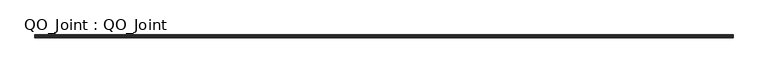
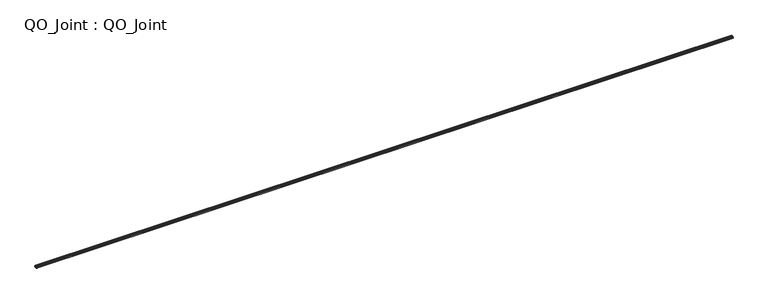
"""IFC4 building model written with IfcOpenShell, lengths in millimetres: beam geometry, QO_Joint : QO_Joint."""

from ifc_helpers import new_model, si_unit, point, frame, frame_2d, origin, place, context, project, spatial, polyline, circle_curve, trimmed, segment, composite_curve, outline, extrude, source, transform, mapped, element, save


def qo_joint_qo_joint_809a4c1a(model_context):
    return source(origin(), model_context, "Body", "SweptSolid", [
        extrude(outline(composite_curve([segment(polyline([(0.6475876, 34.6160805), (0.6475876, 25.5027713), (8.3158634, 25.5027713), (9.8478388, 24.5783623)]), True, "CONTINUOUS"), segment(trimmed(circle_curve(frame_2d((9.6876801, 24.3129396)), 0.31), [point((9.8478388, 24.5783623))], [point((9.6876801, 24.0029396))], False, "CARTESIAN"), True, "CONTINUOUS"), segment(polyline([(9.6876801, 24.0029396), (-9.6923428, 24.0029396)]), True, "CONTINUOUS"), segment(trimmed(circle_curve(frame_2d((-9.6923428, 24.3129396)), 0.31), [point((-9.6923428, 24.0029396))], [point((-9.8525015, 24.5783623))], False, "CARTESIAN"), True, "CONTINUOUS"), segment(polyline([(-9.8525015, 24.5783623), (-8.3205261, 25.5027713), (-0.6524124, 25.5027713), (-0.6524124, 34.6160805), (-2.1674381, 34.6160805), (-0.3546092, 35.9759407), (-0.3546092, 36.7759407), (-2.3561345, 36.7759407), (-2.3561345, 34.317153), (-1.2879019, 34.317153), (-1.2879019, 26.5392087)]), True, "CONTINUOUS"), segment(trimmed(circle_curve(frame_2d((-1.7872786, 26.5150144)), 0.4999625), [point((-1.2879019, 26.5392087))], [point((-1.7872786, 26.0150519))], False, "CARTESIAN"), True, "CONTINUOUS"), segment(polyline([(-1.7872786, 26.0150519), (-12.5010847, 26.0150519), (-12.5010847, 36.190378)]), True, "CONTINUOUS"), segment(trimmed(circle_curve(frame_2d((-11.9010847, 36.190378)), 0.6), [point((-12.5010847, 36.190378))], [point((-11.9010847, 36.790378))], False, "CARTESIAN"), True, "CONTINUOUS"), segment(polyline([(-11.9010847, 36.790378), (-6.362561, 36.790378), (-6.362561, 39.6058207), (-8.961162, 39.6058207), (-7.4224126, 43.8493822), (-4.3991903, 40.3004498), (4.3943655, 40.3004498), (7.4175879, 43.8493822), (8.9563372, 39.6058207), (6.3577362, 39.6058207), (6.3577362, 36.790378), (11.8962599, 36.790378)]), True, "CONTINUOUS"), segment(trimmed(circle_curve(frame_2d((11.8962599, 36.190378)), 0.6), [point((11.8962599, 36.790378))], [point((12.4962599, 36.190378))], False, "CARTESIAN"), True, "CONTINUOUS"), segment(polyline([(12.4962599, 36.190378), (12.4962599, 26.0150519), (1.7824538, 26.0150519)]), True, "CONTINUOUS"), segment(trimmed(circle_curve(frame_2d((1.7824538, 26.5150144)), 0.4999625), [point((1.7824538, 26.0150519))], [point((1.2830771, 26.5392087))], False, "CARTESIAN"), True, "CONTINUOUS"), segment(polyline([(1.2830771, 26.5392087), (1.2830771, 34.317153), (2.3513097, 34.317153), (2.3513097, 36.7759407), (0.3497844, 36.7759407), (0.3497844, 35.9759407), (2.1626133, 34.6160805), (0.6475876, 34.6160805)]), True, "CONTINUOUS")], self_intersect=False)), frame((-488.5, 0.0, 0.0), z_axis=(1.0, 0.0, 0.0), x_axis=(0.0, 1.0, 0.0)), (0.0, 0.0, 1.0), 6479.9970606),
    ])


if __name__ == "__main__":
    model = new_model("IFC4")
    model_context = context("Model", 3, world=origin())
    ifc_project = project(units=[si_unit("LENGTHUNIT", "METRE", prefix="MILLI")], contexts=[model_context])
    site = spatial("IfcSite", under=ifc_project)
    building = spatial("IfcBuilding", under=site)
    placement = place(None, origin())
    qo_joint_qo_joint_shape = qo_joint_qo_joint_809a4c1a(model_context)
    element("IfcBeam", 1, ObjectType="QO_Joint : QO_Joint", at=placement, inside=building, context=model_context, shape_type="MappedRepresentation", body=[
        mapped(qo_joint_qo_joint_shape, transform((0.0, 0.0, 0.0), x_axis=(1.0, 0.0, 0.0), y_axis=(0.0, 1.0, 0.0), z_axis=(0.0, 0.0, 1.0))),
    ])
    save(model, "model.ifc")
